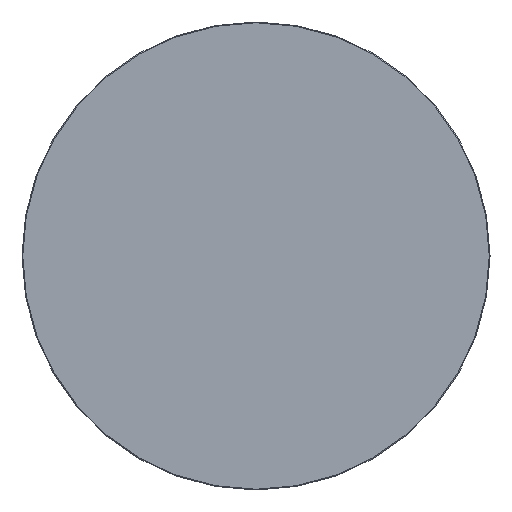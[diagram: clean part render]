
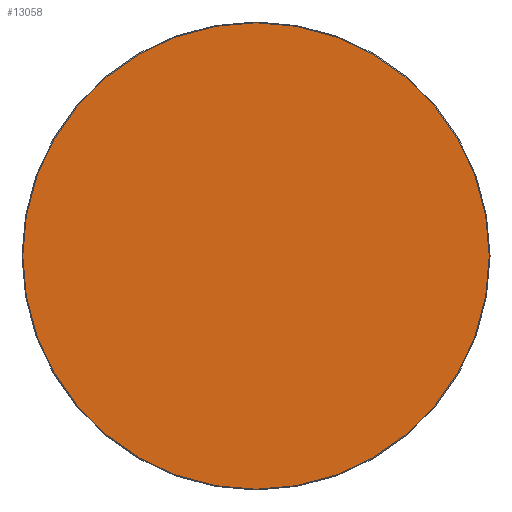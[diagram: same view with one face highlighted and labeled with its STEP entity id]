
A CAD part, top view. The second image highlights one B-rep face of the part: STEP entity #13058.
In plain terms, the highlighted planar face has unit normal (0, 0, 1).
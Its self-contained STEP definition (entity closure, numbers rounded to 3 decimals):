
#12983=CARTESIAN_POINT('',(0.,0.,20.));
#12984=DIRECTION('',(1.,0.,0.));
#12985=DIRECTION('',(0.,0.,1.));
#12986=AXIS2_PLACEMENT_3D('',#12983,#12985,#12984);
#12987=PLANE('',#12986);
#12988=CARTESIAN_POINT('',(-0.5,-448.5,20.));
#12989=VERTEX_POINT('',#12988);
#12990=CARTESIAN_POINT('',(0.5,-448.5,20.));
#12991=VERTEX_POINT('',#12990);
#12992=CARTESIAN_POINT('',(-0.5,-448.5,20.));
#12993=DIRECTION('',(1.,0.,0.));
#12994=VECTOR('',#12993,1.);
#12995=LINE('',#12992,#12994);
#12996=EDGE_CURVE('',#12989,#12991,#12995,.T.);
#12997=ORIENTED_EDGE('E105',*,*,#12996,.T.);
#12998=CARTESIAN_POINT('',(448.5,-0.5,20.));
#12999=VERTEX_POINT('',#12998);
#13000=CARTESIAN_POINT('',(0.5,-0.5,20.));
#13001=DIRECTION('',(0.,-1.,0.));
#13002=DIRECTION('',(0.,-0.,1.));
#13003=AXIS2_PLACEMENT_3D('',#13000,#13002,#13001);
#13004=CIRCLE('',#13003,448.);
#13005=EDGE_CURVE('',#12991,#12999,#13004,.T.);
#13006=ORIENTED_EDGE('E107',*,*,#13005,.T.);
#13007=CARTESIAN_POINT('',(448.5,0.5,20.));
#13008=VERTEX_POINT('',#13007);
#13009=CARTESIAN_POINT('',(448.5,-0.5,20.));
#13010=DIRECTION('',(0.,1.,0.));
#13011=VECTOR('',#13010,1.);
#13012=LINE('',#13009,#13011);
#13013=EDGE_CURVE('',#12999,#13008,#13012,.T.);
#13014=ORIENTED_EDGE('E109',*,*,#13013,.T.);
#13015=CARTESIAN_POINT('',(0.5,448.5,20.));
#13016=VERTEX_POINT('',#13015);
#13017=CARTESIAN_POINT('',(0.5,0.5,20.));
#13018=DIRECTION('',(1.,0.,0.));
#13019=DIRECTION('',(0.,0.,1.));
#13020=AXIS2_PLACEMENT_3D('',#13017,#13019,#13018);
#13021=CIRCLE('',#13020,448.);
#13022=EDGE_CURVE('',#13008,#13016,#13021,.T.);
#13023=ORIENTED_EDGE('E111',*,*,#13022,.T.);
#13024=CARTESIAN_POINT('',(-0.5,448.5,20.));
#13025=VERTEX_POINT('',#13024);
#13026=CARTESIAN_POINT('',(0.5,448.5,20.));
#13027=DIRECTION('',(-1.,0.,0.));
#13028=VECTOR('',#13027,1.);
#13029=LINE('',#13026,#13028);
#13030=EDGE_CURVE('',#13016,#13025,#13029,.T.);
#13031=ORIENTED_EDGE('E113',*,*,#13030,.T.);
#13032=CARTESIAN_POINT('',(-448.5,0.5,20.));
#13033=VERTEX_POINT('',#13032);
#13034=CARTESIAN_POINT('',(-0.5,0.5,20.));
#13035=DIRECTION('',(0.,1.,0.));
#13036=DIRECTION('',(0.,0.,1.));
#13037=AXIS2_PLACEMENT_3D('',#13034,#13036,#13035);
#13038=CIRCLE('',#13037,448.);
#13039=EDGE_CURVE('',#13025,#13033,#13038,.T.);
#13040=ORIENTED_EDGE('E115',*,*,#13039,.T.);
#13041=CARTESIAN_POINT('',(-448.5,-0.5,20.));
#13042=VERTEX_POINT('',#13041);
#13043=CARTESIAN_POINT('',(-448.5,0.5,20.));
#13044=DIRECTION('',(0.,-1.,0.));
#13045=VECTOR('',#13044,1.);
#13046=LINE('',#13043,#13045);
#13047=EDGE_CURVE('',#13033,#13042,#13046,.T.);
#13048=ORIENTED_EDGE('E117',*,*,#13047,.T.);
#13049=CARTESIAN_POINT('',(-0.5,-0.5,20.));
#13050=DIRECTION('',(-1.,0.,0.));
#13051=DIRECTION('',(0.,0.,1.));
#13052=AXIS2_PLACEMENT_3D('',#13049,#13051,#13050);
#13053=CIRCLE('',#13052,448.);
#13054=EDGE_CURVE('',#13042,#12989,#13053,.T.);
#13055=ORIENTED_EDGE('E119',*,*,#13054,.T.);
#13056=EDGE_LOOP('',(#12997,#13006,#13014,#13023,#13031,#13040,#13048,#13055));
#13057=FACE_OUTER_BOUND('',#13056,.T.);
#13058=ADVANCED_FACE('F2',(#13057),#12987,.T.);
